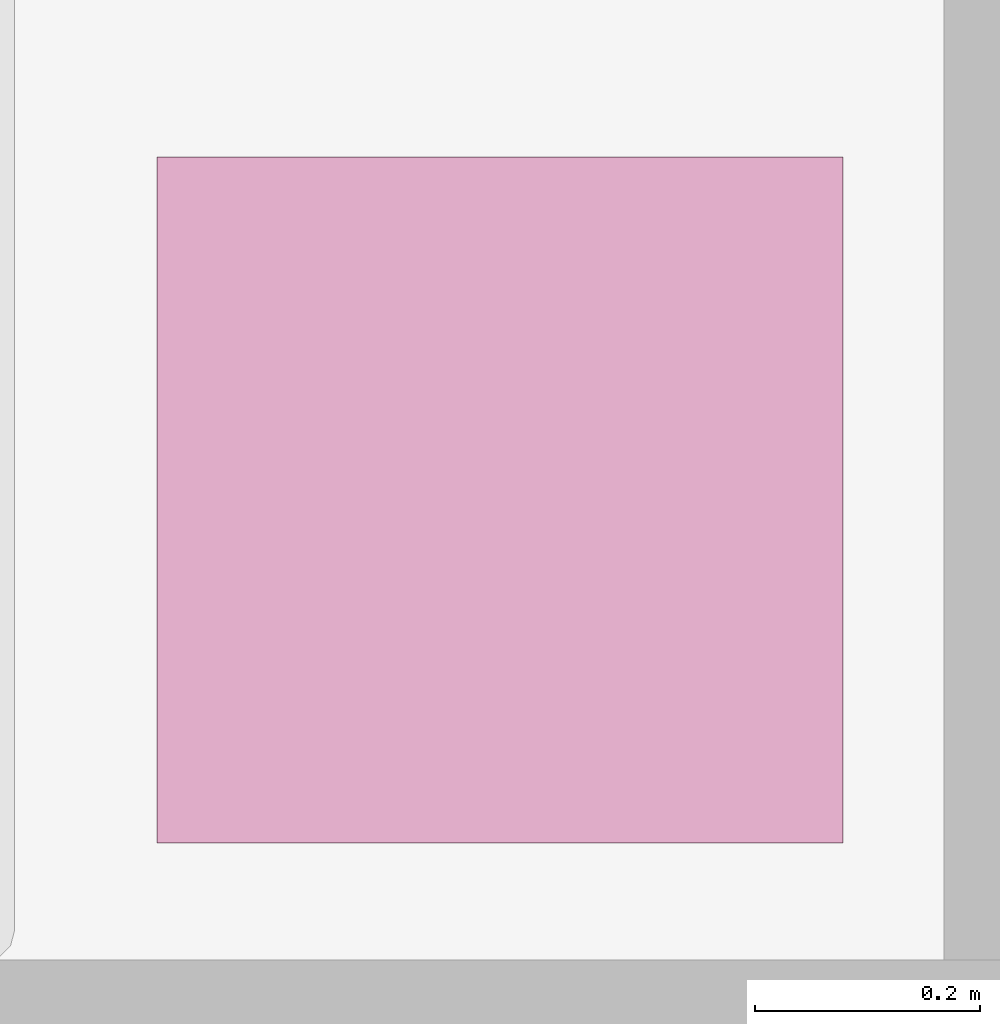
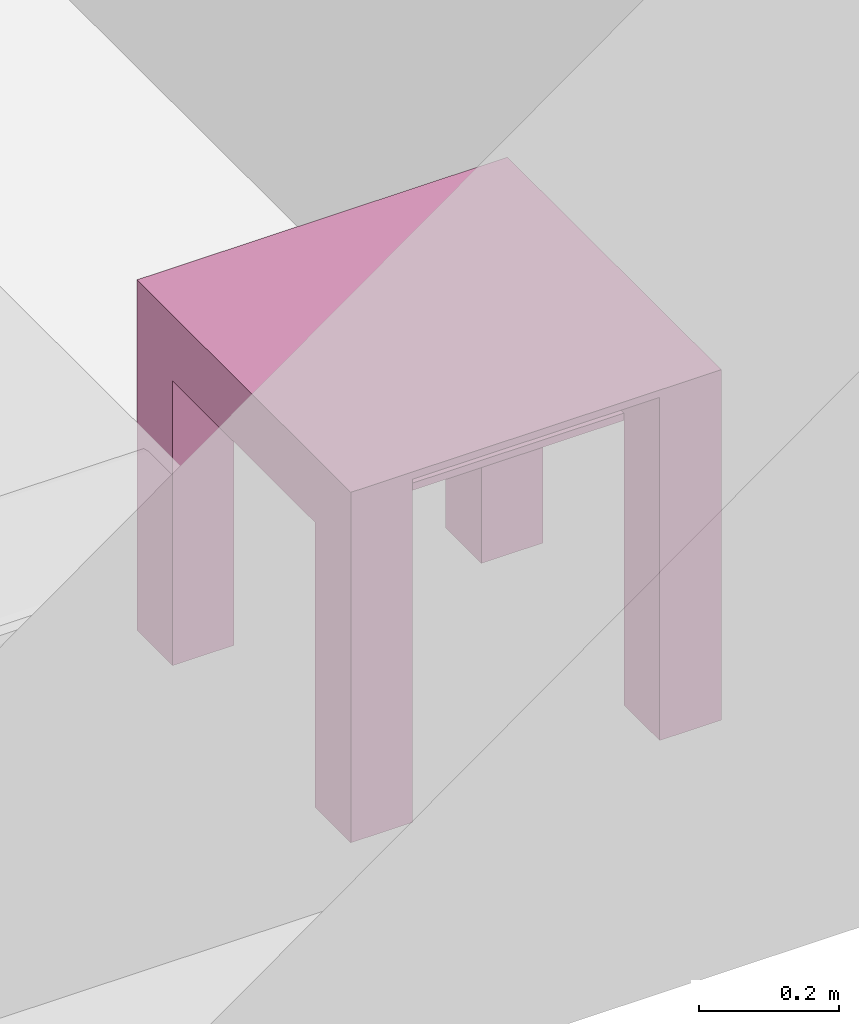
# One storey, part 7 of 16: 1 furnishing.
"""IFC4 building model written with IfcOpenShell, lengths in metres."""

from ifc_helpers import new_model, entity, si_unit, converted_unit, frame, origin, origin_2d_with_axis, place, context, project, spatial, polyline, rectangle, outline, extrude, source, transform, mapped, type_object, type_shapes, element, save


model = new_model("IFC4")

# Units and contexts
model_context = context("Model", 3, precision=1e-09, world=origin())
plan_context = context("Plan", 3, precision=1e-09, world=origin())
ifc_project = project(units=[si_unit("LENGTHUNIT", "METRE"), si_unit("AREAUNIT", "SQUARE_METRE"), si_unit("VOLUMEUNIT", "CUBIC_METRE"), converted_unit("PLANEANGLEUNIT", "DEGREE", entity("IfcRatioMeasure", 0.01745329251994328), si_unit("PLANEANGLEUNIT", "RADIAN"), dimensions=[0, 0, 0, 0, 0, 0, 0]), si_unit("TIMEUNIT", "SECOND")], contexts=[model_context, plan_context])

# Site, building, storey, space
site_placement = place(None, origin())
site = spatial("IfcSite", under=ifc_project, at=site_placement, Name="Default", CompositionType="ELEMENT")
building_placement = place(site_placement, origin())
building = spatial("IfcBuilding", under=site, at=building_placement, CompositionType="ELEMENT")
storey_placement = place(building_placement, frame((0.0, 0.0, 3.100000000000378)))
storey = spatial("IfcBuildingStorey", under=building, at=storey_placement, Name="Level 2", CompositionType="ELEMENT", Elevation=3.100000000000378)
space_placement = place(storey_placement, origin())
space = spatial("IfcSpace", under=storey, at=space_placement, Name="B202", CompositionType="ELEMENT", PredefinedType="SPACE")

# Furnishing
furniture_type = type_object("IfcFurnitureType", Name="0610 x 0610 x 0610mm", AssemblyPlace="NOTDEFINED")
shared_shape = source(origin(), model_context, "Body", "SweptSolid", [
    extrude(rectangle(XDim=0.4067999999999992, YDim=0.4067999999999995, at=origin_2d_with_axis()), frame((0.01826576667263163, 0.09521107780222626, 0.4957000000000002), z_axis=(0.0, 0.0, 1.0), x_axis=(-1.0, 0.0, 0.0)), (0.0, 0.0, 1.0), 0.01270000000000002),
    extrude(outline(polyline([(-0.2732499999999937, -0.3050000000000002), (0.3240499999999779, -0.3050000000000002), (0.3240499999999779, 0.3049999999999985), (-0.2732499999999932, 0.3049999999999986), (-0.2732499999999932, 0.2034000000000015), (0.2224500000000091, 0.2034000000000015), (0.2224500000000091, -0.2033999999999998), (-0.2732499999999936, -0.2033999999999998), (-0.2732499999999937, -0.3050000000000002)])), frame((0.2216657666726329, 0.09521107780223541, 0.2732499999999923), z_axis=(1.0, 0.0, 0.0), x_axis=(0.0, 0.0, 1.0)), (0.0, 0.0, 1.0), 0.1016),
    extrude(outline(polyline([(-0.3050000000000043, -0.3240500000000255), (0.3049999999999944, -0.3240500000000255), (0.3049999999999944, 0.2732500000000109), (0.2034000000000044, 0.2732500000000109), (0.2034000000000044, -0.2224499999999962), (-0.2033999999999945, -0.2224499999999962), (-0.2033999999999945, 0.2732500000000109), (-0.3050000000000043, 0.2732500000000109), (-0.3050000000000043, -0.3240500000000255)])), frame((-0.2867342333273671, 0.09521107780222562, 0.2732500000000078), z_axis=(1.0, 0.0, 0.0), x_axis=(0.0, -1.0, 0.0)), (0.0, 0.0, 1.0), 0.1016),
    extrude(rectangle(XDim=0.4067999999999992, YDim=0.4067999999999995, at=origin_2d_with_axis()), frame((0.01826576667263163, 0.09521107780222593, 0.5973000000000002), z_axis=(0.0, 0.0, 1.0), x_axis=(-1.0, 0.0, 0.0)), (0.0, 0.0, 1.0), 0.01270000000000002),
    extrude(outline(polyline([(-0.3050000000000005, -0.3050000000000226), (0.3050000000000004, -0.3050000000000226), (0.3050000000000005, 0.3050000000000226), (-0.3050000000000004, 0.3050000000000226), (-0.3050000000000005, -0.3050000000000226)]), holes=[polyline([(-0.203399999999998, -0.2033999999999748), (-0.2033999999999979, 0.2034000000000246), (0.2034000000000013, 0.2034000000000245), (0.2034000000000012, -0.2033999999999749), (-0.203399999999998, -0.2033999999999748)])]), frame((0.01826576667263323, 0.09521107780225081, 0.5973000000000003), z_axis=(0.0, 0.0, 1.0), x_axis=(-1.0, 0.0, 0.0)), (0.0, 0.0, 1.0), 0.01269999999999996),
])
type_shapes(furniture_type, [shared_shape])
furnishing_placement = place(space_placement, frame((3.711734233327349, -17.06921107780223, 0.01899999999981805)))
element("IfcFurnishingElement", 1, at=furnishing_placement, inside=space, type_object=furniture_type, Name="M_Table-Coffee:0610 x 0610 x 0610mm:0610 x 0610 x 0610mm", ObjectType="0610 x 0610 x 0610mm", context=model_context, shape_type="MappedRepresentation", body=[
    mapped(shared_shape, transform((0.0, 0.0, 0.0), scale=1.0)),
])

save(model, "model.ifc")
